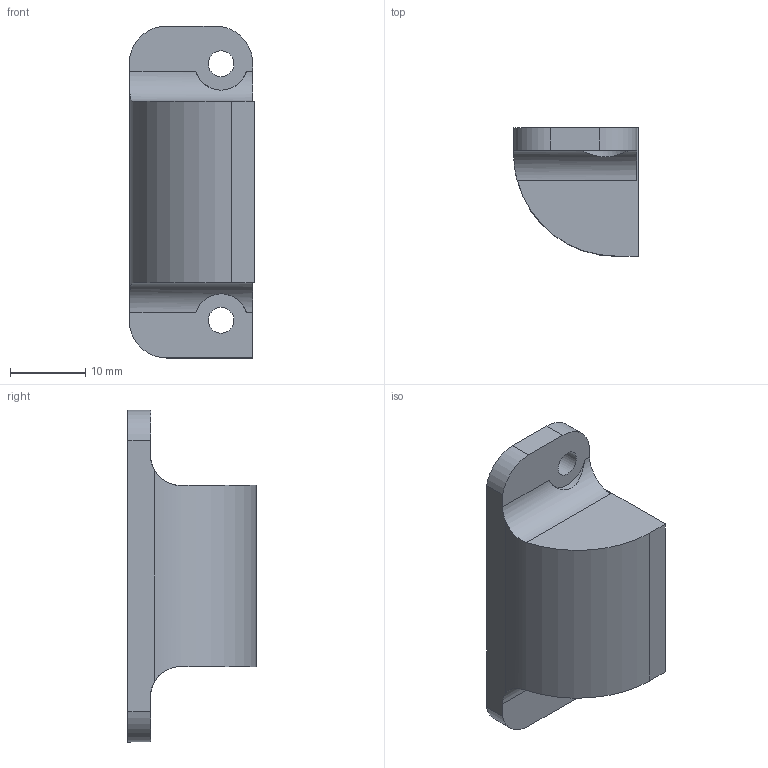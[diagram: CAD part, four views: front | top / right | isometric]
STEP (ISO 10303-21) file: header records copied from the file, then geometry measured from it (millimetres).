
FILE_DESCRIPTION(/* description */ (''),/* implementation_level */ '2;1');
FILE_NAME(/* name */ 'C:/Users/jwmue/3D Objects/RCii/RCii Fan Duct.step',/* time_stamp */ '2021-01-04T12:58:03-06:00',/* author */ (''),/* organization */ (''),/* preprocessor_version */ 'ST-DEVELOPER v18.1',/* originating_system */ 'Autodesk Translation Framework v9.7.1.1290',/* authorisation */ '');
FILE_SCHEMA (('AUTOMOTIVE_DESIGN { 1 0 10303 214 3 1 1 }'));
Length unit declared in the file: millimetre
Products named in the file (1): RCii Fan Duct
Bounding box: 16.48 x 17 x 44 mm (x, y, z)
Volume: 2646.7 mm3; surface area: 2954.7 mm2
Topology: 1 solids, 1 shells, 27 faces, 75 edges, 50 vertices
Faces by surface type: plane 16, cylinder 11
Full cylindrical faces by diameter (mm): 3.4 x2
Entity records: 957 total; most frequent: CARTESIAN_POINT 201, ORIENTED_EDGE 150, DIRECTION 147, EDGE_CURVE 75, LINE 51, VECTOR 51, VERTEX_POINT 50, AXIS2_PLACEMENT_3D 48
